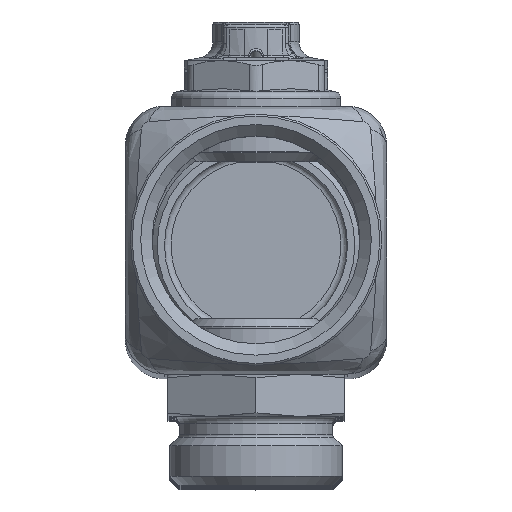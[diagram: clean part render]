
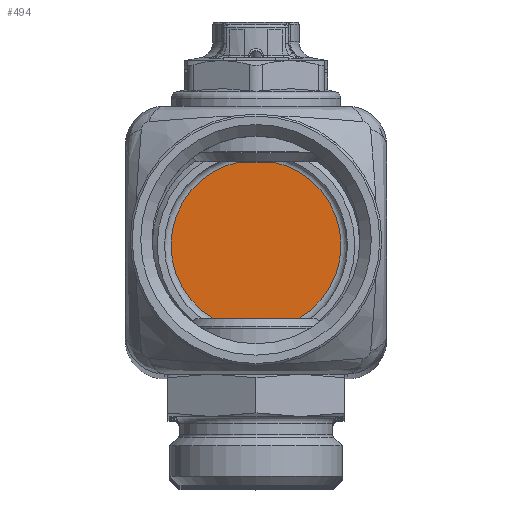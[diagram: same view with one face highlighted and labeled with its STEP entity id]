
A CAD part, top view. The second image highlights one B-rep face of the part: STEP entity #494.
In plain terms, the highlighted planar face has unit normal (0, 0, 1).
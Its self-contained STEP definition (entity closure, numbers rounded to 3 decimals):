
#494=ADVANCED_FACE('',(#6195),#6197,.T.);
#6195=FACE_BOUND('',#6196,.T.);
#6196=EDGE_LOOP('',(#15515));
#6197=PLANE('',#6198);
#6198=AXIS2_PLACEMENT_3D('',#6199,#6200,#6201);
#6199=CARTESIAN_POINT('',(0.,0.,-234.75));
#6200=DIRECTION('',(0.,0.,1.));
#6201=DIRECTION('',(1.,0.,0.));
#15515=ORIENTED_EDGE('',*,*,#18886,.T.);
#18886=EDGE_CURVE('',#21715,#21715,#21716,.T.);
#21715=VERTEX_POINT('',#28850);
#21716=CIRCLE('',#28851,13.);
#28850=CARTESIAN_POINT('',(13.,0.,-234.75));
#28851=AXIS2_PLACEMENT_3D('',#28852,#28853,#28854);
#28852=CARTESIAN_POINT('',(0.,0.,-234.75));
#28853=DIRECTION('',(0.,0.,1.));
#28854=DIRECTION('',(1.,0.,0.));
